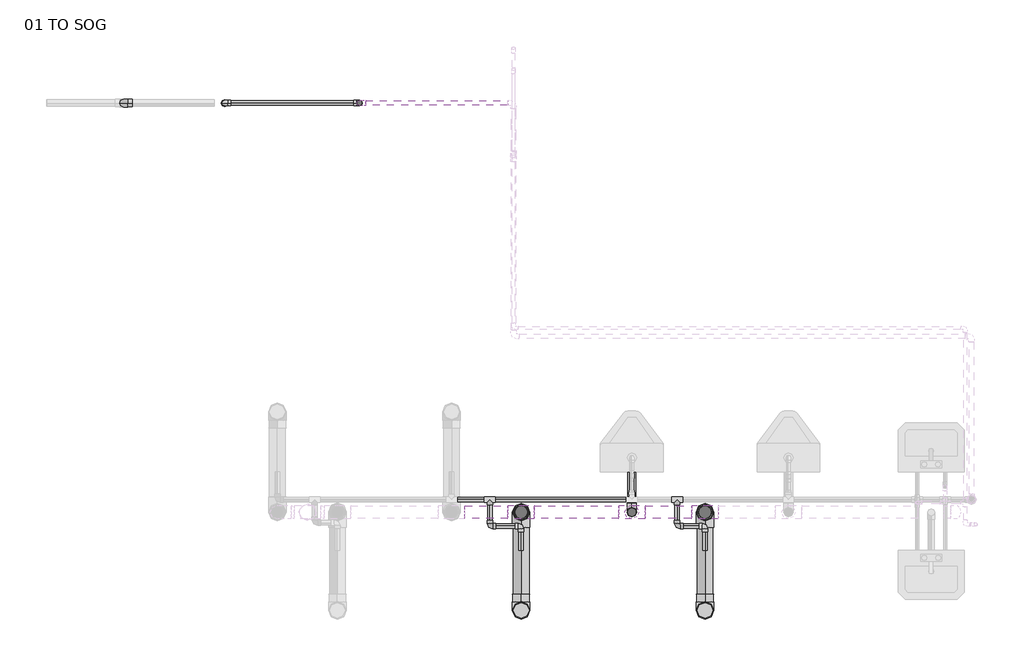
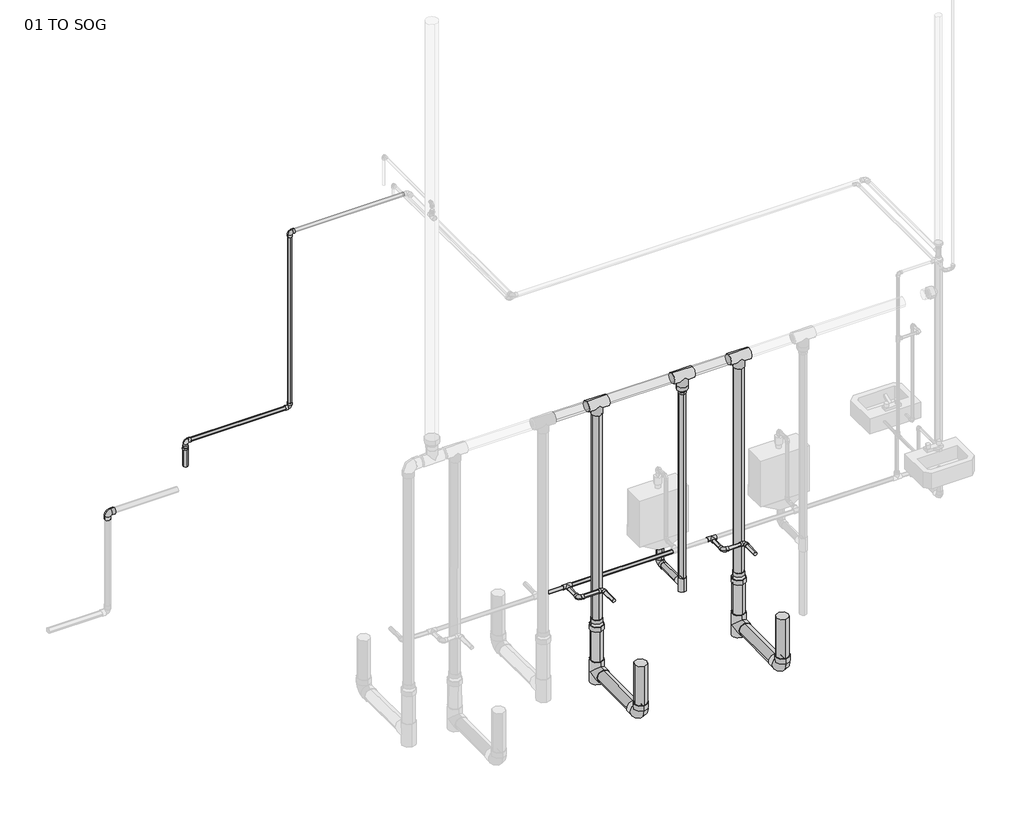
# One storey, part 2 of 4: 26 pipe segments, 23 pipe fittings.
"""IFC4 building model written with IfcOpenShell, lengths in millimetres."""

from ifc_helpers import new_model, si_unit, point, frame, frame_2d, origin, place, context, project, spatial, circle_curve, trimmed, segment, composite_curve, outline, extrude, transform, mapped, element, save
from components import elbow_pvc_sch_40_standard_c47e97bb, elbow_pvc_sch_40_standard_39e3f0c3, elbow_pvc_sch_40_standard_517a5a8d, elbow_pvc_sch_40_standard_102e5625, reducer_pvc_sch_40_dwv_standard_464ee0c2, reducer_pvc_sch_40_dwv_standard_bc2808fd, reducer_pvc_sch_40_dwv_standard_96cb7396, tee_pvc_sch_40_standard_9cddf13a, tee_pvc_sch_40_standard_b08d6211, tee_pvc_sch_40_standard_9261842d, tee_pvc_sch_40_standard_72b35c3b

model = new_model("IFC4")

# Units and contexts
model_context = context("Model", 3, world=origin())
ifc_project = project(units=[si_unit("LENGTHUNIT", "METRE", prefix="MILLI")], contexts=[model_context])

# Site, building, storey
site = spatial("IfcSite", under=ifc_project)
building = spatial("IfcBuilding", under=site)
storey = spatial("IfcBuildingStorey", under=building, Name="01 TO SOG", Elevation=0.0)

# Pipe fittings
placement = place(None, origin())
elbow_pvc_sch_40_standard_shape = elbow_pvc_sch_40_standard_c47e97bb(model_context)
element("IfcPipeFitting", 1, ObjectType="Elbow - PVC - Sch 40 : Standard", at=placement, inside=storey, context=model_context, shape_type="MappedRepresentation", body=[
    mapped(elbow_pvc_sch_40_standard_shape, transform((-15620.0974824, -5157.1953325, -508.0), x_axis=(0.0, 0.0, -1.0), y_axis=(0.0, 1.0, 0.0), z_axis=(1.0, 0.0, 0.0))),
])
element("IfcPipeFitting", 2, ObjectType="Elbow - PVC - Sch 40 : Standard", at=placement, inside=storey, context=model_context, shape_type="MappedRepresentation", body=[
    mapped(elbow_pvc_sch_40_standard_shape, transform((-14278.7262962, -5157.1953325, -508.0), x_axis=(0.0, 0.0, -1.0), y_axis=(0.0, 1.0, 0.0), z_axis=(1.0, 0.0, 0.0))),
])
elbow_pvc_sch_40_standard_2_shape = elbow_pvc_sch_40_standard_39e3f0c3(model_context)
element("IfcPipeFitting", 3, ObjectType="Elbow - PVC - Sch 40 : Standard", at=placement, inside=storey, context=model_context, shape_type="MappedRepresentation", body=[
    mapped(elbow_pvc_sch_40_standard_2_shape, transform((-14812.7542617, -4075.7109575, 74.6125), x_axis=(0.0, 0.0, -1.0), y_axis=(0.0, -1.0, 0.0), z_axis=(-1.0, 0.0, 0.0))),
])
elbow_pvc_sch_40_standard_3_shape = elbow_pvc_sch_40_standard_517a5a8d(model_context)
element("IfcPipeFitting", 4, ObjectType="Elbow - PVC - Sch 40 : Standard", at=placement, inside=storey, context=model_context, shape_type="MappedRepresentation", body=[
    mapped(elbow_pvc_sch_40_standard_3_shape, transform((-15620.0974824, -4541.2453325, 355.6), x_axis=(0.0, 1.0, 0.0), y_axis=(-1.0, 0.0, 0.0), z_axis=(0.0, 0.0, 1.0))),
])
element("IfcPipeFitting", 5, ObjectType="Elbow - PVC - Sch 40 : Standard", at=placement, inside=storey, context=model_context, shape_type="MappedRepresentation", body=[
    mapped(elbow_pvc_sch_40_standard_3_shape, transform((-15848.6974824, -4541.2453325, 355.6), x_axis=(0.0, -1.0, 0.0), y_axis=(1.0, 0.0, 0.0), z_axis=(0.0, 0.0, 1.0))),
])
element("IfcPipeFitting", 6, ObjectType="Elbow - PVC - Sch 40 : Standard", at=placement, inside=storey, context=model_context, shape_type="MappedRepresentation", body=[
    mapped(elbow_pvc_sch_40_standard_3_shape, transform((-14278.7262962, -4541.2453325, 355.6), x_axis=(0.0, 1.0, 0.0), y_axis=(-1.0, 0.0, 0.0), z_axis=(0.0, 0.0, 1.0))),
])
element("IfcPipeFitting", 7, ObjectType="Elbow - PVC - Sch 40 : Standard", at=placement, inside=storey, context=model_context, shape_type="MappedRepresentation", body=[
    mapped(elbow_pvc_sch_40_standard_3_shape, transform((-14481.9262962, -4541.2453325, 355.6), x_axis=(0.0, -1.0, 0.0), y_axis=(1.0, 0.0, 0.0), z_axis=(0.0, 0.0, 1.0))),
])
element("IfcPipeFitting", 8, ObjectType="Elbow - PVC - Sch 40 : Standard", at=placement, inside=storey, context=model_context, shape_type="MappedRepresentation", body=[
    mapped(elbow_pvc_sch_40_standard_3_shape, transform((-16798.8050114, -1451.9703325, 2475.1150248), x_axis=(0.0, 0.0, 1.0), y_axis=(1.0, 0.0, 0.0), z_axis=(0.0, 1.0, 0.0))),
])
element("IfcPipeFitting", 9, ObjectType="Elbow - PVC - Sch 40 : Standard", at=placement, inside=storey, context=model_context, shape_type="MappedRepresentation", body=[
    mapped(elbow_pvc_sch_40_standard_3_shape, transform((-16798.8050114, -1451.9703325, 731.04375), x_axis=(0.0, 0.0, -1.0), y_axis=(-1.0, 0.0, 0.0), z_axis=(0.0, 1.0, 0.0))),
])
element("IfcPipeFitting", 10, ObjectType="Elbow - PVC - Sch 40 : Standard", at=placement, inside=storey, context=model_context, shape_type="MappedRepresentation", body=[
    mapped(elbow_pvc_sch_40_standard_3_shape, transform((-17783.7605117, -1451.9703325, 731.04375), x_axis=(-1.0, 0.0, 0.0), y_axis=(0.0, 0.0, -1.0), z_axis=(0.0, -1.0, 0.0))),
])
elbow_pvc_sch_40_standard_4_shape = elbow_pvc_sch_40_standard_102e5625(model_context)
element("IfcPipeFitting", 11, ObjectType="Elbow - PVC - Sch 40 : Standard", at=placement, inside=storey, context=model_context, shape_type="MappedRepresentation", body=[
    mapped(elbow_pvc_sch_40_standard_4_shape, transform((-18520.3605117, -1451.9703325, 272.25625), x_axis=(0.0, 0.0, 1.0), y_axis=(1.0, 0.0, 0.0), z_axis=(0.0, 1.0, 0.0))),
])
reducer_pvc_sch_40_dwv_standard_shape = reducer_pvc_sch_40_dwv_standard_464ee0c2(model_context)
element("IfcPipeFitting", 12, ObjectType="Reducer - PVC - Sch 40 - DWV : Standard", at=placement, inside=storey, context=model_context, shape_type="MappedRepresentation", body=[
    mapped(reducer_pvc_sch_40_dwv_standard_shape, transform((-14812.7542617, -4439.7857603, 2066.925), x_axis=(0.0, 0.0, -1.0), y_axis=(1.0, 0.0, 0.0), z_axis=(0.0, -1.0, 0.0))),
])
reducer_pvc_sch_40_dwv_standard_2_shape = reducer_pvc_sch_40_dwv_standard_bc2808fd(model_context)
element("IfcPipeFitting", 13, ObjectType="Reducer - PVC - Sch 40 - DWV : Standard", at=placement, inside=storey, context=model_context, shape_type="MappedRepresentation", body=[
    mapped(reducer_pvc_sch_40_dwv_standard_2_shape, transform((-14278.7262962, -4439.7857603, 21.7732164), x_axis=(0.0, 0.0, -1.0), y_axis=(-1.0, 0.0, 0.0), z_axis=(0.0, 1.0, 0.0))),
])
element("IfcPipeFitting", 14, ObjectType="Reducer - PVC - Sch 40 - DWV : Standard", at=placement, inside=storey, context=model_context, shape_type="MappedRepresentation", body=[
    mapped(reducer_pvc_sch_40_dwv_standard_2_shape, transform((-15620.0974824, -4439.7857603, 21.7732164), x_axis=(0.0, 0.0, -1.0), y_axis=(-1.0, 0.0, 0.0), z_axis=(0.0, 1.0, 0.0))),
])
reducer_pvc_sch_40_dwv_standard_3_shape = reducer_pvc_sch_40_dwv_standard_96cb7396(model_context)
element("IfcPipeFitting", 15, ObjectType="Reducer - PVC - Sch 40 - DWV : Standard", at=placement, inside=storey, context=model_context, shape_type="MappedRepresentation", body=[
    mapped(reducer_pvc_sch_40_dwv_standard_3_shape, transform((-17783.7605117, -1451.9703325, 687.7812), x_axis=(0.0, 0.0, -1.0), y_axis=(-1.0, 0.0, 0.0), z_axis=(0.0, 1.0, 0.0))),
])
tee_pvc_sch_40_standard_shape = tee_pvc_sch_40_standard_9cddf13a(model_context)
element("IfcPipeFitting", 16, ObjectType="Tee - PVC - Sch 40 : Standard", at=placement, inside=storey, context=model_context, shape_type="MappedRepresentation", body=[
    mapped(tee_pvc_sch_40_standard_shape, transform((-15620.0974824, -4439.7857603, -500.5269836), x_axis=(0.0, 0.0, 1.0), y_axis=(0.0, 1.0, 0.0), z_axis=(-1.0, 0.0, 0.0))),
])
element("IfcPipeFitting", 17, ObjectType="Tee - PVC - Sch 40 : Standard", at=placement, inside=storey, context=model_context, shape_type="MappedRepresentation", body=[
    mapped(tee_pvc_sch_40_standard_shape, transform((-14278.7262962, -4439.7857603, -500.5269836), x_axis=(0.0, 0.0, 1.0), y_axis=(0.0, 1.0, 0.0), z_axis=(-1.0, 0.0, 0.0))),
])
tee_pvc_sch_40_standard_2_shape = tee_pvc_sch_40_standard_b08d6211(model_context)
element("IfcPipeFitting", 18, ObjectType="Tee - PVC - Sch 40 : Standard", at=placement, inside=storey, context=model_context, shape_type="MappedRepresentation", body=[
    mapped(tee_pvc_sch_40_standard_2_shape, transform((-14812.7542617, -4439.7857603, 78.4049459), x_axis=(0.0, 0.0, 1.0), y_axis=(0.0, -1.0, 0.0), z_axis=(1.0, 0.0, 0.0))),
])
tee_pvc_sch_40_standard_3_shape = tee_pvc_sch_40_standard_9261842d(model_context)
element("IfcPipeFitting", 19, ObjectType="Tee - PVC - Sch 40 : Standard", at=placement, inside=storey, context=model_context, shape_type="MappedRepresentation", body=[
    mapped(tee_pvc_sch_40_standard_3_shape, transform((-14278.7262962, -4439.7857603, 2163.7752), x_axis=(-1.0, 0.0, 0.0), y_axis=(0.0, 0.0, 1.0), z_axis=(0.0, 1.0, 0.0))),
])
element("IfcPipeFitting", 20, ObjectType="Tee - PVC - Sch 40 : Standard", at=placement, inside=storey, context=model_context, shape_type="MappedRepresentation", body=[
    mapped(tee_pvc_sch_40_standard_3_shape, transform((-14812.7542617, -4439.7857603, 2163.7752), x_axis=(-1.0, 0.0, 0.0), y_axis=(0.0, 0.0, 1.0), z_axis=(0.0, 1.0, 0.0))),
])
element("IfcPipeFitting", 21, ObjectType="Tee - PVC - Sch 40 : Standard", at=placement, inside=storey, context=model_context, shape_type="MappedRepresentation", body=[
    mapped(tee_pvc_sch_40_standard_3_shape, transform((-15620.0974824, -4439.7857603, 2163.7752), x_axis=(-1.0, 0.0, 0.0), y_axis=(0.0, 0.0, 1.0), z_axis=(0.0, 1.0, 0.0))),
])
tee_pvc_sch_40_standard_4_shape = tee_pvc_sch_40_standard_72b35c3b(model_context)
element("IfcPipeFitting", 22, ObjectType="Tee - PVC - Sch 40 : Standard", at=placement, inside=storey, context=model_context, shape_type="MappedRepresentation", body=[
    mapped(tee_pvc_sch_40_standard_4_shape, transform((-15848.6974824, -4347.5703325, 355.6), x_axis=(-1.0, 0.0, 0.0), y_axis=(0.0, 1.0, 0.0), z_axis=(0.0, 0.0, -1.0))),
])
element("IfcPipeFitting", 23, ObjectType="Tee - PVC - Sch 40 : Standard", at=placement, inside=storey, context=model_context, shape_type="MappedRepresentation", body=[
    mapped(tee_pvc_sch_40_standard_4_shape, transform((-14481.9262962, -4347.5703325, 355.6), x_axis=(-1.0, 0.0, 0.0), y_axis=(0.0, 1.0, 0.0), z_axis=(0.0, 0.0, -1.0))),
])

# Pipe segments
element("IfcPipeSegment", 24, ObjectType="Standard", at=placement, inside=storey, context=model_context, shape_type="SweptSolid", body=[
    extrude(outline(composite_curve([segment(trimmed(circle_curve(frame_2d((-15620.0974824, -5157.1953325)), 57.15), [point((-15562.9474824, -5157.1953325))], [point((-15620.0974824, -5214.3453325))], False, "CARTESIAN"), True, "CONTINUOUS"), segment(trimmed(circle_curve(frame_2d((-15620.0974824, -5157.1953325)), 57.15), [point((-15620.0974824, -5214.3453325))], [point((-15677.2474824, -5157.1953325))], False, "CARTESIAN"), True, "CONTINUOUS"), segment(trimmed(circle_curve(frame_2d((-15620.0974824, -5157.1953325)), 57.15), [point((-15677.2474824, -5157.1953325))], [point((-15620.0974824, -5100.0453325))], False, "CARTESIAN"), True, "CONTINUOUS"), segment(trimmed(circle_curve(frame_2d((-15620.0974824, -5157.1953325)), 57.15), [point((-15620.0974824, -5100.0453325))], [point((-15562.9474824, -5157.1953325))], False, "CARTESIAN"), True, "CONTINUOUS")], self_intersect=False)), frame((0.0, 0.0, -390.6328354), z_axis=(0.0, 0.0, 1.0), x_axis=(1.0, 0.0, 0.0)), (0.0, 0.0, 1.0), 390.6328354),
])
element("IfcPipeSegment", 25, ObjectType="Standard", at=placement, inside=storey, context=model_context, shape_type="SweptSolid", body=[
    extrude(outline(composite_curve([segment(trimmed(circle_curve(frame_2d((0.0, -57.15)), 57.15), [point((-57.15, -57.15))], [point((0.0, 0.0))], False, "CARTESIAN"), True, "CONTINUOUS"), segment(trimmed(circle_curve(frame_2d((0.0, -57.15)), 57.15), [point((0.0, 0.0))], [point((57.15, -57.15))], False, "CARTESIAN"), True, "CONTINUOUS"), segment(trimmed(circle_curve(frame_2d((0.0, -57.15)), 57.15), [point((57.15, -57.15))], [point((0.0, -114.3000001))], False, "CARTESIAN"), True, "CONTINUOUS"), segment(trimmed(circle_curve(frame_2d((0.0, -57.15)), 57.15), [point((0.0, -114.3000001))], [point((-57.15, -57.15))], False, "CARTESIAN"), True, "CONTINUOUS")], self_intersect=False)), frame((-15620.0974824, -5039.2392547, -563.9243914), z_axis=(0.0, 0.999945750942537, 0.010416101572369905), x_axis=(1.0, 0.0, 0.0)), (0.0, 0.0, 1.0), 488.9563285),
])
element("IfcPipeSegment", 26, ObjectType="Standard", at=placement, inside=storey, context=model_context, shape_type="SweptSolid", body=[
    extrude(outline(composite_curve([segment(trimmed(circle_curve(frame_2d((-14278.7262962, -5157.1953325)), 57.15), [point((-14221.5762962, -5157.1953325))], [point((-14278.7262962, -5214.3453325))], False, "CARTESIAN"), True, "CONTINUOUS"), segment(trimmed(circle_curve(frame_2d((-14278.7262962, -5157.1953325)), 57.15), [point((-14278.7262962, -5214.3453325))], [point((-14335.8762962, -5157.1953325))], False, "CARTESIAN"), True, "CONTINUOUS"), segment(trimmed(circle_curve(frame_2d((-14278.7262962, -5157.1953325)), 57.15), [point((-14335.8762962, -5157.1953325))], [point((-14278.7262962, -5100.0453325))], False, "CARTESIAN"), True, "CONTINUOUS"), segment(trimmed(circle_curve(frame_2d((-14278.7262962, -5157.1953325)), 57.15), [point((-14278.7262962, -5100.0453325))], [point((-14221.5762962, -5157.1953325))], False, "CARTESIAN"), True, "CONTINUOUS")], self_intersect=False)), frame((0.0, 0.0, -390.6328354), z_axis=(0.0, 0.0, 1.0), x_axis=(1.0, 0.0, 0.0)), (0.0, 0.0, 1.0), 390.6328354),
])
element("IfcPipeSegment", 27, ObjectType="Standard", at=placement, inside=storey, context=model_context, shape_type="SweptSolid", body=[
    extrude(outline(composite_curve([segment(trimmed(circle_curve(frame_2d((0.0, -57.15)), 57.15), [point((-57.15, -57.15))], [point((0.0, 0.0))], False, "CARTESIAN"), True, "CONTINUOUS"), segment(trimmed(circle_curve(frame_2d((0.0, -57.15)), 57.15), [point((0.0, 0.0))], [point((57.15, -57.15))], False, "CARTESIAN"), True, "CONTINUOUS"), segment(trimmed(circle_curve(frame_2d((0.0, -57.15)), 57.15), [point((57.15, -57.15))], [point((0.0, -114.3000001))], False, "CARTESIAN"), True, "CONTINUOUS"), segment(trimmed(circle_curve(frame_2d((0.0, -57.15)), 57.15), [point((0.0, -114.3000001))], [point((-57.15, -57.15))], False, "CARTESIAN"), True, "CONTINUOUS")], self_intersect=False)), frame((-14278.7262962, -5039.2392547, -563.9243914), z_axis=(0.0, 0.999945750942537, 0.010416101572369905), x_axis=(1.0, 0.0, 0.0)), (0.0, 0.0, 1.0), 488.9563285),
])
element("IfcPipeSegment", 28, ObjectType="Standard", at=placement, inside=storey, context=model_context, shape_type="SweptSolid", body=[
    extrude(outline(composite_curve([segment(trimmed(circle_curve(frame_2d((-15620.0974824, -4439.7857603)), 57.15), [point((-15677.2474824, -4439.7857603))], [point((-15620.0974824, -4382.6357603))], False, "CARTESIAN"), True, "CONTINUOUS"), segment(trimmed(circle_curve(frame_2d((-15620.0974824, -4439.7857603)), 57.15), [point((-15620.0974824, -4382.6357603))], [point((-15562.9474824, -4439.7857603))], False, "CARTESIAN"), True, "CONTINUOUS"), segment(trimmed(circle_curve(frame_2d((-15620.0974824, -4439.7857603)), 57.15), [point((-15562.9474824, -4439.7857603))], [point((-15620.0974824, -4496.9357603))], False, "CARTESIAN"), True, "CONTINUOUS"), segment(trimmed(circle_curve(frame_2d((-15620.0974824, -4439.7857603)), 57.15), [point((-15620.0974824, -4496.9357603))], [point((-15677.2474824, -4439.7857603))], False, "CARTESIAN"), True, "CONTINUOUS")], self_intersect=False)), frame((0.0, 0.0, -389.4019836), z_axis=(0.0, 0.0, 1.0), x_axis=(1.0, 0.0, 0.0)), (0.0, 0.0, 1.0), 304.8),
])
element("IfcPipeSegment", 29, ObjectType="Standard", at=placement, inside=storey, context=model_context, shape_type="SweptSolid", body=[
    extrude(outline(composite_curve([segment(trimmed(circle_curve(frame_2d((-14278.7262962, -4439.7857603)), 57.15), [point((-14335.8762962, -4439.7857603))], [point((-14278.7262962, -4382.6357603))], False, "CARTESIAN"), True, "CONTINUOUS"), segment(trimmed(circle_curve(frame_2d((-14278.7262962, -4439.7857603)), 57.15), [point((-14278.7262962, -4382.6357603))], [point((-14221.5762962, -4439.7857603))], False, "CARTESIAN"), True, "CONTINUOUS"), segment(trimmed(circle_curve(frame_2d((-14278.7262962, -4439.7857603)), 57.15), [point((-14221.5762962, -4439.7857603))], [point((-14278.7262962, -4496.9357603))], False, "CARTESIAN"), True, "CONTINUOUS"), segment(trimmed(circle_curve(frame_2d((-14278.7262962, -4439.7857603)), 57.15), [point((-14278.7262962, -4496.9357603))], [point((-14335.8762962, -4439.7857603))], False, "CARTESIAN"), True, "CONTINUOUS")], self_intersect=False)), frame((0.0, 0.0, -389.4019836), z_axis=(0.0, 0.0, 1.0), x_axis=(1.0, 0.0, 0.0)), (0.0, 0.0, 1.0), 304.8),
])
element("IfcPipeSegment", 30, ObjectType="Standard", at=placement, inside=storey, context=model_context, shape_type="SweptSolid", body=[
    extrude(outline(composite_curve([segment(trimmed(circle_curve(frame_2d((-14812.7542617, -4075.7109575)), 30.1625), [point((-14782.5917617, -4075.7109575))], [point((-14812.7542617, -4105.8734575))], False, "CARTESIAN"), True, "CONTINUOUS"), segment(trimmed(circle_curve(frame_2d((-14812.7542617, -4075.7109575)), 30.1625), [point((-14812.7542617, -4105.8734575))], [point((-14842.9167617, -4075.7109575))], False, "CARTESIAN"), True, "CONTINUOUS"), segment(trimmed(circle_curve(frame_2d((-14812.7542617, -4075.7109575)), 30.1625), [point((-14842.9167617, -4075.7109575))], [point((-14812.7542617, -4045.5484575))], False, "CARTESIAN"), True, "CONTINUOUS"), segment(trimmed(circle_curve(frame_2d((-14812.7542617, -4075.7109575)), 30.1625), [point((-14812.7542617, -4045.5484575))], [point((-14782.5917617, -4075.7109575))], False, "CARTESIAN"), True, "CONTINUOUS")], self_intersect=False)), frame((0.0, 0.0, 139.2720133), z_axis=(0.0, 0.0, 1.0), x_axis=(1.0, 0.0, 0.0)), (0.0, 0.0, 1.0), 109.9654867),
])
element("IfcPipeSegment", 31, ObjectType="Standard", at=placement, inside=storey, context=model_context, shape_type="SweptSolid", body=[
    extrude(outline(composite_curve([segment(trimmed(circle_curve(frame_2d((0.0, 30.1625001)), 30.1625), [point((-30.1625, 30.1625001))], [point((0.0, 60.3250001))], False, "CARTESIAN"), True, "CONTINUOUS"), segment(trimmed(circle_curve(frame_2d((0.0, 30.1625001)), 30.1625), [point((0.0, 60.3250001))], [point((30.1625, 30.1625001))], False, "CARTESIAN"), True, "CONTINUOUS"), segment(trimmed(circle_curve(frame_2d((0.0, 30.1625001)), 30.1625), [point((30.1625, 30.1625001))], [point((0.0, 0.0))], False, "CARTESIAN"), True, "CONTINUOUS"), segment(trimmed(circle_curve(frame_2d((0.0, 30.1625001)), 30.1625), [point((0.0, 0.0))], [point((-30.1625, 30.1625001))], False, "CARTESIAN"), True, "CONTINUOUS")], self_intersect=False)), frame((-14812.7542617, -4140.6811388, 45.1251363), z_axis=(0.0, -0.9999457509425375, 0.010416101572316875), x_axis=(1.0, 0.0, 0.0)), (0.0, 0.0, 1.0), 232.7600412),
])
element("IfcPipeSegment", 32, ObjectType="Standard", at=placement, inside=storey, context=model_context, shape_type="SweptSolid", body=[
    extrude(outline(composite_curve([segment(trimmed(circle_curve(frame_2d((-14812.7542617, -4439.7857603)), 30.1625), [point((-14782.5917617, -4439.7857603))], [point((-14812.7542617, -4469.9482603))], False, "CARTESIAN"), True, "CONTINUOUS"), segment(trimmed(circle_curve(frame_2d((-14812.7542617, -4439.7857603)), 30.1625), [point((-14812.7542617, -4469.9482603))], [point((-14842.9167617, -4439.7857603))], False, "CARTESIAN"), True, "CONTINUOUS"), segment(trimmed(circle_curve(frame_2d((-14812.7542617, -4439.7857603)), 30.1625), [point((-14842.9167617, -4439.7857603))], [point((-14812.7542617, -4409.6232603))], False, "CARTESIAN"), True, "CONTINUOUS"), segment(trimmed(circle_curve(frame_2d((-14812.7542617, -4439.7857603)), 30.1625), [point((-14812.7542617, -4409.6232603))], [point((-14782.5917617, -4439.7857603))], False, "CARTESIAN"), True, "CONTINUOUS")], self_intersect=False)), frame((0.0, 0.0, 145.0799459), z_axis=(0.0, 0.0, 1.0), x_axis=(1.0, 0.0, 0.0)), (0.0, 0.0, 1.0), 1842.4700541),
])
element("IfcPipeSegment", 33, ObjectType="Standard", at=placement, inside=storey, context=model_context, shape_type="SweptSolid", body=[
    extrude(outline(composite_curve([segment(trimmed(circle_curve(frame_2d((-15620.0974824, -4439.7857603)), 44.45), [point((-15575.6474824, -4439.7857603))], [point((-15620.0974824, -4484.2357603))], False, "CARTESIAN"), True, "CONTINUOUS"), segment(trimmed(circle_curve(frame_2d((-15620.0974824, -4439.7857603)), 44.45), [point((-15620.0974824, -4484.2357603))], [point((-15664.5474824, -4439.7857603))], False, "CARTESIAN"), True, "CONTINUOUS"), segment(trimmed(circle_curve(frame_2d((-15620.0974824, -4439.7857603)), 44.45), [point((-15664.5474824, -4439.7857603))], [point((-15620.0974824, -4395.3357603))], False, "CARTESIAN"), True, "CONTINUOUS"), segment(trimmed(circle_curve(frame_2d((-15620.0974824, -4439.7857603)), 44.45), [point((-15620.0974824, -4395.3357603))], [point((-15575.6474824, -4439.7857603))], False, "CARTESIAN"), True, "CONTINUOUS")], self_intersect=False)), frame((0.0, 0.0, 21.7732164), z_axis=(0.0, 0.0, 1.0), x_axis=(1.0, 0.0, 0.0)), (0.0, 0.0, 1.0), 2045.1517836),
])
element("IfcPipeSegment", 34, ObjectType="Standard", at=placement, inside=storey, context=model_context, shape_type="SweptSolid", body=[
    extrude(outline(composite_curve([segment(trimmed(circle_curve(frame_2d((-14278.7262962, -4439.7857603)), 44.45), [point((-14234.2762962, -4439.7857603))], [point((-14278.7262962, -4484.2357603))], False, "CARTESIAN"), True, "CONTINUOUS"), segment(trimmed(circle_curve(frame_2d((-14278.7262962, -4439.7857603)), 44.45), [point((-14278.7262962, -4484.2357603))], [point((-14323.1762962, -4439.7857603))], False, "CARTESIAN"), True, "CONTINUOUS"), segment(trimmed(circle_curve(frame_2d((-14278.7262962, -4439.7857603)), 44.45), [point((-14323.1762962, -4439.7857603))], [point((-14278.7262962, -4395.3357603))], False, "CARTESIAN"), True, "CONTINUOUS"), segment(trimmed(circle_curve(frame_2d((-14278.7262962, -4439.7857603)), 44.45), [point((-14278.7262962, -4395.3357603))], [point((-14234.2762962, -4439.7857603))], False, "CARTESIAN"), True, "CONTINUOUS")], self_intersect=False)), frame((0.0, 0.0, 21.7732164), z_axis=(0.0, 0.0, 1.0), x_axis=(1.0, 0.0, 0.0)), (0.0, 0.0, 1.0), 2045.1517836),
])
element("IfcPipeSegment", 35, ObjectType="Standard", at=placement, inside=storey, context=model_context, shape_type="SweptSolid", body=[
    extrude(outline(composite_curve([segment(trimmed(circle_curve(frame_2d((-4439.7857603, 2163.7752)), 44.45), [point((-4484.2357603, 2163.7752))], [point((-4439.7857603, 2208.2252))], False, "CARTESIAN"), True, "CONTINUOUS"), segment(trimmed(circle_curve(frame_2d((-4439.7857603, 2163.7752)), 44.45), [point((-4439.7857603, 2208.2252))], [point((-4395.3357603, 2163.7752))], False, "CARTESIAN"), True, "CONTINUOUS"), segment(trimmed(circle_curve(frame_2d((-4439.7857603, 2163.7752)), 44.45), [point((-4395.3357603, 2163.7752))], [point((-4439.7857603, 2119.3252))], False, "CARTESIAN"), True, "CONTINUOUS"), segment(trimmed(circle_curve(frame_2d((-4439.7857603, 2163.7752)), 44.45), [point((-4439.7857603, 2119.3252))], [point((-4484.2357603, 2163.7752))], False, "CARTESIAN"), True, "CONTINUOUS")], self_intersect=False)), frame((-15523.2472824, 0.0, 0.0), z_axis=(1.0, 0.0, 0.0), x_axis=(0.0, 1.0, 0.0)), (0.0, 0.0, 1.0), 613.6428207),
])
element("IfcPipeSegment", 36, ObjectType="Standard", at=placement, inside=storey, context=model_context, shape_type="SweptSolid", body=[
    extrude(outline(composite_curve([segment(trimmed(circle_curve(frame_2d((-4439.7857603, 2163.7752)), 44.45), [point((-4484.2357603, 2163.7752))], [point((-4439.7857603, 2208.2252))], False, "CARTESIAN"), True, "CONTINUOUS"), segment(trimmed(circle_curve(frame_2d((-4439.7857603, 2163.7752)), 44.45), [point((-4439.7857603, 2208.2252))], [point((-4395.3357603, 2163.7752))], False, "CARTESIAN"), True, "CONTINUOUS"), segment(trimmed(circle_curve(frame_2d((-4439.7857603, 2163.7752)), 44.45), [point((-4395.3357603, 2163.7752))], [point((-4439.7857603, 2119.3252))], False, "CARTESIAN"), True, "CONTINUOUS"), segment(trimmed(circle_curve(frame_2d((-4439.7857603, 2163.7752)), 44.45), [point((-4439.7857603, 2119.3252))], [point((-4484.2357603, 2163.7752))], False, "CARTESIAN"), True, "CONTINUOUS")], self_intersect=False)), frame((-14715.9040617, 0.0, 0.0), z_axis=(1.0, 0.0, 0.0), x_axis=(0.0, 1.0, 0.0)), (0.0, 0.0, 1.0), 340.3275655),
])
element("IfcPipeSegment", 37, ObjectType="Standard", at=placement, inside=storey, context=model_context, shape_type="SweptSolid", body=[
    extrude(outline(composite_curve([segment(trimmed(circle_curve(frame_2d((-4439.7857603, 2163.7752)), 44.45), [point((-4395.3357603, 2163.7752))], [point((-4439.7857603, 2119.3252))], False, "CARTESIAN"), True, "CONTINUOUS"), segment(trimmed(circle_curve(frame_2d((-4439.7857603, 2163.7752)), 44.45), [point((-4439.7857603, 2119.3252))], [point((-4484.2357603, 2163.7752))], False, "CARTESIAN"), True, "CONTINUOUS"), segment(trimmed(circle_curve(frame_2d((-4439.7857603, 2163.7752)), 44.45), [point((-4484.2357603, 2163.7752))], [point((-4439.7857603, 2208.2252))], False, "CARTESIAN"), True, "CONTINUOUS"), segment(trimmed(circle_curve(frame_2d((-4439.7857603, 2163.7752)), 44.45), [point((-4439.7857603, 2208.2252))], [point((-4395.3357603, 2163.7752))], False, "CARTESIAN"), True, "CONTINUOUS")], self_intersect=False)), frame((-16031.2472824, 0.0, 0.0), z_axis=(1.0, 0.0, 0.0), x_axis=(0.0, 1.0, 0.0)), (0.0, 0.0, 1.0), 314.2996),
])
element("IfcPipeSegment", 38, ObjectType="Standard", at=placement, inside=storey, context=model_context, shape_type="SweptSolid", body=[
    extrude(outline(composite_curve([segment(trimmed(circle_curve(frame_2d((355.6, -15620.0974824)), 16.66875), [point((355.6, -15603.4287324))], [point((372.26875, -15620.0974824))], False, "CARTESIAN"), True, "CONTINUOUS"), segment(trimmed(circle_curve(frame_2d((355.6, -15620.0974824)), 16.66875), [point((372.26875, -15620.0974824))], [point((355.6, -15636.7662324))], False, "CARTESIAN"), True, "CONTINUOUS"), segment(trimmed(circle_curve(frame_2d((355.6, -15620.0974824)), 16.66875), [point((355.6, -15636.7662324))], [point((338.93125, -15620.0974824))], False, "CARTESIAN"), True, "CONTINUOUS"), segment(trimmed(circle_curve(frame_2d((355.6, -15620.0974824)), 16.66875), [point((338.93125, -15620.0974824))], [point((355.6, -15603.4287324))], False, "CARTESIAN"), True, "CONTINUOUS")], self_intersect=False)), frame((0.0, -4719.0453325, 0.0), z_axis=(0.0, 1.0, 0.0), x_axis=(0.0, 0.0, 1.0)), (0.0, 0.0, 1.0), 134.53745),
])
element("IfcPipeSegment", 39, ObjectType="Standard", at=placement, inside=storey, context=model_context, shape_type="SweptSolid", body=[
    extrude(outline(composite_curve([segment(trimmed(circle_curve(frame_2d((-4541.2453325, 355.6)), 16.66875), [point((-4524.5765825, 355.6))], [point((-4541.2453325, 338.93125))], False, "CARTESIAN"), True, "CONTINUOUS"), segment(trimmed(circle_curve(frame_2d((-4541.2453325, 355.6)), 16.66875), [point((-4541.2453325, 338.93125))], [point((-4557.9140825, 355.6))], False, "CARTESIAN"), True, "CONTINUOUS"), segment(trimmed(circle_curve(frame_2d((-4541.2453325, 355.6)), 16.66875), [point((-4557.9140825, 355.6))], [point((-4541.2453325, 372.26875))], False, "CARTESIAN"), True, "CONTINUOUS"), segment(trimmed(circle_curve(frame_2d((-4541.2453325, 355.6)), 16.66875), [point((-4541.2453325, 372.26875))], [point((-4524.5765825, 355.6))], False, "CARTESIAN"), True, "CONTINUOUS")], self_intersect=False)), frame((-15805.4349324, 0.0, 0.0), z_axis=(1.0, 0.0, 0.0), x_axis=(0.0, 1.0, 0.0)), (0.0, 0.0, 1.0), 142.0749),
])
element("IfcPipeSegment", 40, ObjectType="Standard", at=placement, inside=storey, context=model_context, shape_type="SweptSolid", body=[
    extrude(outline(composite_curve([segment(trimmed(circle_curve(frame_2d((355.6, -15848.6974824)), 16.66875), [point((355.6, -15832.0287324))], [point((372.26875, -15848.6974824))], False, "CARTESIAN"), True, "CONTINUOUS"), segment(trimmed(circle_curve(frame_2d((355.6, -15848.6974824)), 16.66875), [point((372.26875, -15848.6974824))], [point((355.6, -15865.3662324))], False, "CARTESIAN"), True, "CONTINUOUS"), segment(trimmed(circle_curve(frame_2d((355.6, -15848.6974824)), 16.66875), [point((355.6, -15865.3662324))], [point((338.93125, -15848.6974824))], False, "CARTESIAN"), True, "CONTINUOUS"), segment(trimmed(circle_curve(frame_2d((355.6, -15848.6974824)), 16.66875), [point((338.93125, -15848.6974824))], [point((355.6, -15832.0287324))], False, "CARTESIAN"), True, "CONTINUOUS")], self_intersect=False)), frame((0.0, -4497.9827825, 0.0), z_axis=(0.0, 1.0, 0.0), x_axis=(0.0, 0.0, 1.0)), (0.0, 0.0, 1.0), 110.71225),
])
element("IfcPipeSegment", 41, ObjectType="Standard", at=placement, inside=storey, context=model_context, shape_type="SweptSolid", body=[
    extrude(outline(composite_curve([segment(trimmed(circle_curve(frame_2d((-4347.5703325, 355.6)), 16.66875), [point((-4364.2390825, 355.6))], [point((-4347.5703325, 372.26875))], False, "CARTESIAN"), True, "CONTINUOUS"), segment(trimmed(circle_curve(frame_2d((-4347.5703325, 355.6)), 16.66875), [point((-4347.5703325, 372.26875))], [point((-4330.9015825, 355.6))], False, "CARTESIAN"), True, "CONTINUOUS"), segment(trimmed(circle_curve(frame_2d((-4347.5703325, 355.6)), 16.66875), [point((-4330.9015825, 355.6))], [point((-4347.5703325, 338.93125))], False, "CARTESIAN"), True, "CONTINUOUS"), segment(trimmed(circle_curve(frame_2d((-4347.5703325, 355.6)), 16.66875), [point((-4347.5703325, 338.93125))], [point((-4364.2390825, 355.6))], False, "CARTESIAN"), True, "CONTINUOUS")], self_intersect=False)), frame((-16088.3972824, 0.0, 0.0), z_axis=(1.0, 0.0, 0.0), x_axis=(0.0, 1.0, 0.0)), (0.0, 0.0, 1.0), 199.9996),
])
element("IfcPipeSegment", 42, ObjectType="Standard", at=placement, inside=storey, context=model_context, shape_type="SweptSolid", body=[
    extrude(outline(composite_curve([segment(trimmed(circle_curve(frame_2d((355.6, -14278.7262962)), 16.66875), [point((355.6, -14262.0575462))], [point((372.26875, -14278.7262962))], False, "CARTESIAN"), True, "CONTINUOUS"), segment(trimmed(circle_curve(frame_2d((355.6, -14278.7262962)), 16.66875), [point((372.26875, -14278.7262962))], [point((355.6, -14295.3950462))], False, "CARTESIAN"), True, "CONTINUOUS"), segment(trimmed(circle_curve(frame_2d((355.6, -14278.7262962)), 16.66875), [point((355.6, -14295.3950462))], [point((338.93125, -14278.7262962))], False, "CARTESIAN"), True, "CONTINUOUS"), segment(trimmed(circle_curve(frame_2d((355.6, -14278.7262962)), 16.66875), [point((338.93125, -14278.7262962))], [point((355.6, -14262.0575462))], False, "CARTESIAN"), True, "CONTINUOUS")], self_intersect=False)), frame((0.0, -4719.0453325, 0.0), z_axis=(0.0, 1.0, 0.0), x_axis=(0.0, 0.0, 1.0)), (0.0, 0.0, 1.0), 134.53745),
])
element("IfcPipeSegment", 43, ObjectType="Standard", at=placement, inside=storey, context=model_context, shape_type="SweptSolid", body=[
    extrude(outline(composite_curve([segment(trimmed(circle_curve(frame_2d((-4541.2453325, 355.6)), 16.66875), [point((-4524.5765825, 355.6))], [point((-4541.2453325, 338.93125))], False, "CARTESIAN"), True, "CONTINUOUS"), segment(trimmed(circle_curve(frame_2d((-4541.2453325, 355.6)), 16.66875), [point((-4541.2453325, 338.93125))], [point((-4557.9140825, 355.6))], False, "CARTESIAN"), True, "CONTINUOUS"), segment(trimmed(circle_curve(frame_2d((-4541.2453325, 355.6)), 16.66875), [point((-4557.9140825, 355.6))], [point((-4541.2453325, 372.26875))], False, "CARTESIAN"), True, "CONTINUOUS"), segment(trimmed(circle_curve(frame_2d((-4541.2453325, 355.6)), 16.66875), [point((-4541.2453325, 372.26875))], [point((-4524.5765825, 355.6))], False, "CARTESIAN"), True, "CONTINUOUS")], self_intersect=False)), frame((-14438.6637462, 0.0, 0.0), z_axis=(1.0, 0.0, 0.0), x_axis=(0.0, 1.0, 0.0)), (0.0, 0.0, 1.0), 116.6749),
])
element("IfcPipeSegment", 44, ObjectType="Standard", at=placement, inside=storey, context=model_context, shape_type="SweptSolid", body=[
    extrude(outline(composite_curve([segment(trimmed(circle_curve(frame_2d((355.6, -14481.9262962)), 16.66875), [point((355.6, -14465.2575462))], [point((372.26875, -14481.9262962))], False, "CARTESIAN"), True, "CONTINUOUS"), segment(trimmed(circle_curve(frame_2d((355.6, -14481.9262962)), 16.66875), [point((372.26875, -14481.9262962))], [point((355.6, -14498.5950462))], False, "CARTESIAN"), True, "CONTINUOUS"), segment(trimmed(circle_curve(frame_2d((355.6, -14481.9262962)), 16.66875), [point((355.6, -14498.5950462))], [point((338.93125, -14481.9262962))], False, "CARTESIAN"), True, "CONTINUOUS"), segment(trimmed(circle_curve(frame_2d((355.6, -14481.9262962)), 16.66875), [point((338.93125, -14481.9262962))], [point((355.6, -14465.2575462))], False, "CARTESIAN"), True, "CONTINUOUS")], self_intersect=False)), frame((0.0, -4497.9827825, 0.0), z_axis=(0.0, 1.0, 0.0), x_axis=(0.0, 0.0, 1.0)), (0.0, 0.0, 1.0), 110.71225),
])
element("IfcPipeSegment", 45, ObjectType="Standard", at=placement, inside=storey, context=model_context, shape_type="SweptSolid", body=[
    extrude(outline(composite_curve([segment(trimmed(circle_curve(frame_2d((-4347.5703325, 355.6)), 16.66875), [point((-4364.2390825, 355.6))], [point((-4347.5703325, 372.26875))], False, "CARTESIAN"), True, "CONTINUOUS"), segment(trimmed(circle_curve(frame_2d((-4347.5703325, 355.6)), 16.66875), [point((-4347.5703325, 372.26875))], [point((-4330.9015825, 355.6))], False, "CARTESIAN"), True, "CONTINUOUS"), segment(trimmed(circle_curve(frame_2d((-4347.5703325, 355.6)), 16.66875), [point((-4330.9015825, 355.6))], [point((-4347.5703325, 338.93125))], False, "CARTESIAN"), True, "CONTINUOUS"), segment(trimmed(circle_curve(frame_2d((-4347.5703325, 355.6)), 16.66875), [point((-4347.5703325, 338.93125))], [point((-4364.2390825, 355.6))], False, "CARTESIAN"), True, "CONTINUOUS")], self_intersect=False)), frame((-15808.9972824, 0.0, 0.0), z_axis=(1.0, 0.0, 0.0), x_axis=(0.0, 1.0, 0.0)), (0.0, 0.0, 1.0), 956.5428207),
])
element("IfcPipeSegment", 46, ObjectType="Standard", at=placement, inside=storey, context=model_context, shape_type="SweptSolid", body=[
    extrude(outline(composite_curve([segment(trimmed(circle_curve(frame_2d((-1451.9703325, 2475.1150248)), 16.66875), [point((-1468.6390825, 2475.1150248))], [point((-1451.9703325, 2491.7837748))], False, "CARTESIAN"), True, "CONTINUOUS"), segment(trimmed(circle_curve(frame_2d((-1451.9703325, 2475.1150248)), 16.66875), [point((-1451.9703325, 2491.7837748))], [point((-1435.3015825, 2475.1150248))], False, "CARTESIAN"), True, "CONTINUOUS"), segment(trimmed(circle_curve(frame_2d((-1451.9703325, 2475.1150248)), 16.66875), [point((-1435.3015825, 2475.1150248))], [point((-1451.9703325, 2458.4462748))], False, "CARTESIAN"), True, "CONTINUOUS"), segment(trimmed(circle_curve(frame_2d((-1451.9703325, 2475.1150248)), 16.66875), [point((-1451.9703325, 2458.4462748))], [point((-1468.6390825, 2475.1150248))], False, "CARTESIAN"), True, "CONTINUOUS")], self_intersect=False)), frame((-16755.5424614, 0.0, 0.0), z_axis=(1.0, 0.0, 0.0), x_axis=(0.0, 1.0, 0.0)), (0.0, 0.0, 1.0), 1035.9256498),
])
element("IfcPipeSegment", 47, ObjectType="Standard", at=placement, inside=storey, context=model_context, shape_type="SweptSolid", body=[
    extrude(outline(composite_curve([segment(trimmed(circle_curve(frame_2d((-16798.8050114, -1451.9703325)), 16.66875), [point((-16782.1362614, -1451.9703325))], [point((-16798.8050114, -1468.6390825))], False, "CARTESIAN"), True, "CONTINUOUS"), segment(trimmed(circle_curve(frame_2d((-16798.8050114, -1451.9703325)), 16.66875), [point((-16798.8050114, -1468.6390825))], [point((-16815.4737614, -1451.9703325))], False, "CARTESIAN"), True, "CONTINUOUS"), segment(trimmed(circle_curve(frame_2d((-16798.8050114, -1451.9703325)), 16.66875), [point((-16815.4737614, -1451.9703325))], [point((-16798.8050114, -1435.3015825))], False, "CARTESIAN"), True, "CONTINUOUS"), segment(trimmed(circle_curve(frame_2d((-16798.8050114, -1451.9703325)), 16.66875), [point((-16798.8050114, -1435.3015825))], [point((-16782.1362614, -1451.9703325))], False, "CARTESIAN"), True, "CONTINUOUS")], self_intersect=False)), frame((0.0, 0.0, 774.3063), z_axis=(0.0, 0.0, 1.0), x_axis=(1.0, 0.0, 0.0)), (0.0, 0.0, 1.0), 1657.5461748),
])
element("IfcPipeSegment", 48, ObjectType="Standard", at=placement, inside=storey, context=model_context, shape_type="SweptSolid", body=[
    extrude(outline(composite_curve([segment(trimmed(circle_curve(frame_2d((-17783.7605117, -1451.9703325)), 21.034375), [point((-17762.7261367, -1451.9703325))], [point((-17783.7605117, -1473.0047075))], False, "CARTESIAN"), True, "CONTINUOUS"), segment(trimmed(circle_curve(frame_2d((-17783.7605117, -1451.9703325)), 21.034375), [point((-17783.7605117, -1473.0047075))], [point((-17804.7948867, -1451.9703325))], False, "CARTESIAN"), True, "CONTINUOUS"), segment(trimmed(circle_curve(frame_2d((-17783.7605117, -1451.9703325)), 21.034375), [point((-17804.7948867, -1451.9703325))], [point((-17783.7605117, -1430.9359575))], False, "CARTESIAN"), True, "CONTINUOUS"), segment(trimmed(circle_curve(frame_2d((-17783.7605117, -1451.9703325)), 21.034375), [point((-17783.7605117, -1430.9359575))], [point((-17762.7261367, -1451.9703325))], False, "CARTESIAN"), True, "CONTINUOUS")], self_intersect=False)), frame((0.0, 0.0, 483.39375), z_axis=(0.0, 0.0, 1.0), x_axis=(1.0, 0.0, 0.0)), (0.0, 0.0, 1.0), 170.4268563),
])
element("IfcPipeSegment", 49, ObjectType="Standard", at=placement, inside=storey, context=model_context, shape_type="SweptSolid", body=[
    extrude(outline(composite_curve([segment(trimmed(circle_curve(frame_2d((-1451.9703325, 731.04375)), 16.66875), [point((-1468.6390825, 731.04375))], [point((-1451.9703325, 747.7125))], False, "CARTESIAN"), True, "CONTINUOUS"), segment(trimmed(circle_curve(frame_2d((-1451.9703325, 731.04375)), 16.66875), [point((-1451.9703325, 747.7125))], [point((-1435.3015825, 731.04375))], False, "CARTESIAN"), True, "CONTINUOUS"), segment(trimmed(circle_curve(frame_2d((-1451.9703325, 731.04375)), 16.66875), [point((-1435.3015825, 731.04375))], [point((-1451.9703325, 714.375))], False, "CARTESIAN"), True, "CONTINUOUS"), segment(trimmed(circle_curve(frame_2d((-1451.9703325, 731.04375)), 16.66875), [point((-1451.9703325, 714.375))], [point((-1468.6390825, 731.04375))], False, "CARTESIAN"), True, "CONTINUOUS")], self_intersect=False)), frame((-17740.4979617, 0.0, 0.0), z_axis=(1.0, 0.0, 0.0), x_axis=(0.0, 1.0, 0.0)), (0.0, 0.0, 1.0), 898.4304002),
])

save(model, "model.ifc")
